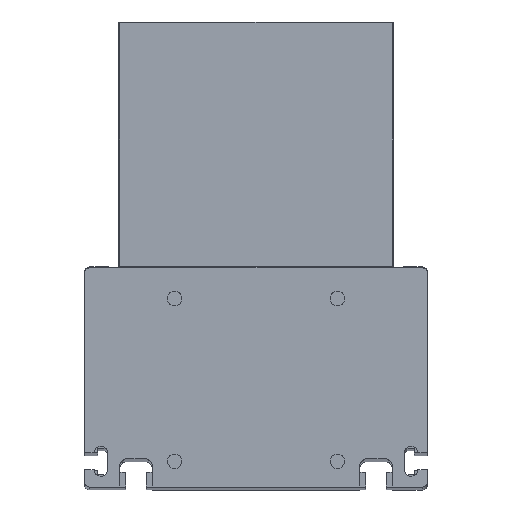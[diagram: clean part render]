
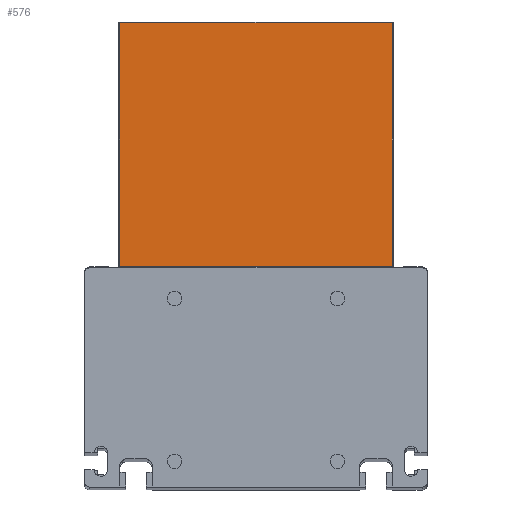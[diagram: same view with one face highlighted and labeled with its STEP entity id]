
A CAD part, top view. The second image highlights one B-rep face of the part: STEP entity #576.
In plain terms, the highlighted planar face has unit normal (0, 0, 1).
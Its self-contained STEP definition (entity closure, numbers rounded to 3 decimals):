
#445 = VECTOR ( 'NONE', #8162, 1000. ) ;
#576 = ADVANCED_FACE ( 'NONE', ( #1528 ), #5281, .F. ) ;
#963 = DIRECTION ( 'NONE',  ( 0., 1., 0. ) ) ;
#994 = ORIENTED_EDGE ( 'NONE', *, *, #7878, .T. ) ;
#1528 = FACE_OUTER_BOUND ( 'NONE', #11850, .T. ) ;
#1651 = CARTESIAN_POINT ( 'NONE',  ( -79.5, 0., 155. ) ) ;
#2127 = VECTOR ( 'NONE', #6498, 1000. ) ;
#2447 = DIRECTION ( 'NONE',  ( 0., 1., 0. ) ) ;
#2782 = VERTEX_POINT ( 'NONE', #7494 ) ;
#3529 = LINE ( 'NONE', #4551, #445 ) ;
#3867 = CARTESIAN_POINT ( 'NONE',  ( 79.5, 0.5, 155. ) ) ;
#3907 = VERTEX_POINT ( 'NONE', #3867 ) ;
#4551 = CARTESIAN_POINT ( 'NONE',  ( 80., 142.5, 155. ) ) ;
#4924 = AXIS2_PLACEMENT_3D ( 'NONE', #8882, #11654, #2447 ) ;
#4946 = EDGE_CURVE ( 'NONE', #2782, #8220, #9206, .T. ) ;
#5281 = PLANE ( 'NONE',  #4924 ) ;
#5936 = VECTOR ( 'NONE', #963, 1000. ) ;
#6469 = EDGE_CURVE ( 'NONE', #8572, #2782, #3529, .T. ) ;
#6498 = DIRECTION ( 'NONE',  ( 0., -1., 0. ) ) ;
#6627 = CARTESIAN_POINT ( 'NONE',  ( 80., 0.5, 155. ) ) ;
#7494 = CARTESIAN_POINT ( 'NONE',  ( -79.5, 142.5, 155. ) ) ;
#7878 = EDGE_CURVE ( 'NONE', #8220, #3907, #11222, .T. ) ;
#8162 = DIRECTION ( 'NONE',  ( -1., 0., 0. ) ) ;
#8203 = CARTESIAN_POINT ( 'NONE',  ( 79.5, 143., 155. ) ) ;
#8220 = VERTEX_POINT ( 'NONE', #11479 ) ;
#8506 = CARTESIAN_POINT ( 'NONE',  ( 79.5, 142.5, 155. ) ) ;
#8572 = VERTEX_POINT ( 'NONE', #8506 ) ;
#8882 = CARTESIAN_POINT ( 'NONE',  ( 80., 0., 155. ) ) ;
#9206 = LINE ( 'NONE', #1651, #2127 ) ;
#9669 = EDGE_CURVE ( 'NONE', #3907, #8572, #10189, .T. ) ;
#10069 = VECTOR ( 'NONE', #10298, 1000. ) ;
#10189 = LINE ( 'NONE', #8203, #5936 ) ;
#10298 = DIRECTION ( 'NONE',  ( 1., 0., 0. ) ) ;
#10519 = ORIENTED_EDGE ( 'NONE', *, *, #6469, .T. ) ;
#10812 = ORIENTED_EDGE ( 'NONE', *, *, #9669, .T. ) ;
#11222 = LINE ( 'NONE', #6627, #10069 ) ;
#11479 = CARTESIAN_POINT ( 'NONE',  ( -79.5, 0.5, 155. ) ) ;
#11642 = ORIENTED_EDGE ( 'NONE', *, *, #4946, .T. ) ;
#11654 = DIRECTION ( 'NONE',  ( 0., 0., -1. ) ) ;
#11850 = EDGE_LOOP ( 'NONE', ( #10812, #10519, #11642, #994 ) ) ;
